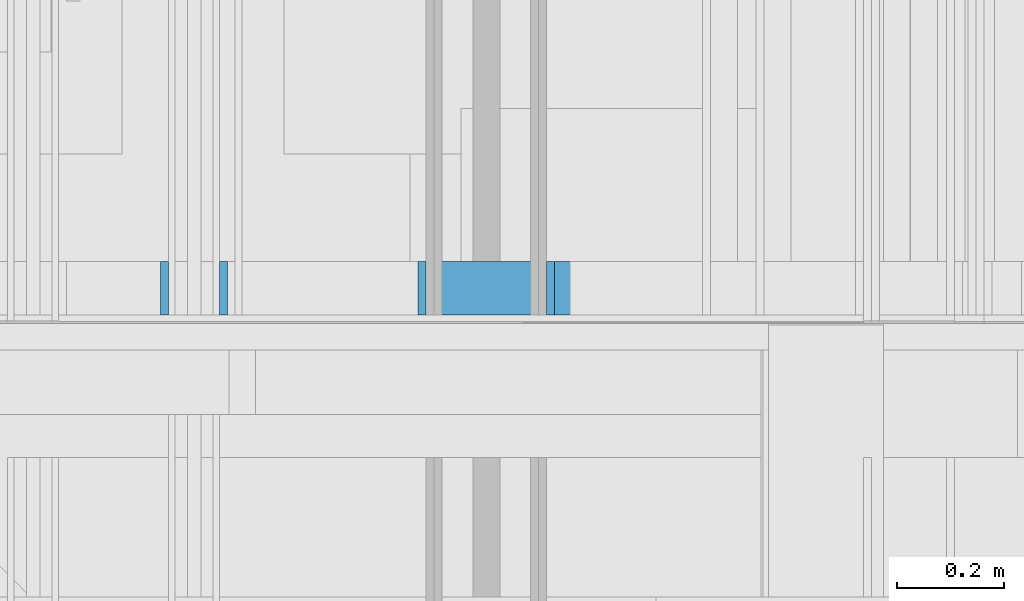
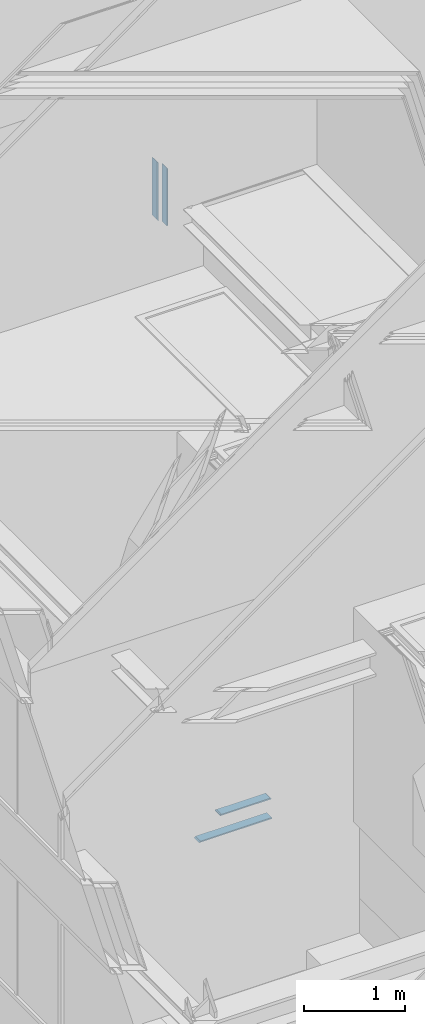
# One storey, part 211 of 583: 6 building element parts, 3 elements without a shape of their own.
"""IFC2X3 building model written with IfcOpenShell, lengths in metres."""

import ifcopenshell
import ifcopenshell.guid

model = None  # the IFC model being written
_history = None  # IfcOwnerHistory: only IFC2X3 demands one
_inside = {}  # id of a spatial element -> (the spatial element, [elements in it])
_under = {}  # id of a project, library or spatial element -> (it, [spatial elements below it])
_declared = {}  # id of a project -> (the project, [libraries it declares])
_typed = {}  # id of a type object -> (the type object, [elements of that type])
_made_of = {}  # id of a material, layer set ... -> (it, [elements and type objects made of it])


def new_model(schema):
    """Start an empty IFC model of exactly this schema.

    Asked for "IFC4X3", IfcOpenShell would pick the latest addendum, in which some entities
    have other attributes; the version numbers below select the first issue.
    IFC2X3 requires an IfcOwnerHistory on every rooted entity: one is made here for all.
    """
    global model, _history
    if schema == "IFC4X3":
        model = ifcopenshell.file(schema_version=(4, 3, 0, 0))
    else:
        model = ifcopenshell.file(schema=schema)
    _inside.clear()
    _under.clear()
    _declared.clear()
    _typed.clear()
    _made_of.clear()
    _history = None
    if model.schema == "IFC2X3":
        org = make("IfcOrganization", Name="unknown")
        user = make(
            "IfcPersonAndOrganization",
            ThePerson=make("IfcPerson", FamilyName="unknown"),
            TheOrganization=org,
        )
        app = make(
            "IfcApplication",
            ApplicationDeveloper=org,
            Version="unknown",
            ApplicationFullName="unknown",
            ApplicationIdentifier="unknown",
        )
        _history = make(
            "IfcOwnerHistory",
            OwningUser=user,
            OwningApplication=app,
            ChangeAction="ADDED",
            CreationDate=0,
        )
    return model


def make(cls, **values):
    """One entity of the class cls with the attributes given. An attribute that is None is left unset."""
    return model.create_entity(
        cls, **{name: value for name, value in values.items() if value is not None}
    )


def entity(cls, *values):
    """Any entity or typed value of the class cls, its attributes in the order of the schema. None: left unset."""
    e = model.create_entity(cls)
    for i, value in enumerate(values):
        if value is not None:
            e[i] = value
    return e


def rooted(cls, **values):
    """An entity with a GlobalId (a new one), such as an element, a storey or a relation."""
    return make(cls, GlobalId=ifcopenshell.guid.new(), OwnerHistory=_history, **values)


def si_unit(unit_type, name, prefix=None):
    """IfcSIUnit, for example si_unit("LENGTHUNIT", "METRE", prefix="MILLI")."""
    return make("IfcSIUnit", UnitType=unit_type, Prefix=prefix, Name=name)


def converted_unit(unit_type, name, factor, base, dimensions=None, offset=None):
    """IfcConversionBasedUnit, such as the inch: factor (a typed value) times the base unit."""
    return make(
        "IfcConversionBasedUnit"
        if offset is None
        else "IfcConversionBasedUnitWithOffset",
        ConversionOffset=offset,
        Dimensions=None
        if dimensions is None
        else entity("IfcDimensionalExponents", *dimensions),
        UnitType=unit_type,
        Name=name,
        ConversionFactor=make(
            "IfcMeasureWithUnit", ValueComponent=factor, UnitComponent=base
        ),
    )


def derived_unit(unit_type, elements):
    """IfcDerivedUnit: a product of units, each with its exponent."""
    return make(
        "IfcDerivedUnit",
        Elements=[
            make("IfcDerivedUnitElement", Unit=unit, Exponent=power)
            for unit, power in elements
        ],
        UnitType=unit_type,
    )


def money_unit(currency):
    """IfcMonetaryUnit."""
    return make("IfcMonetaryUnit", Currency=currency)


def assignment(units):
    """IfcUnitAssignment: the units of a project."""
    return None if units is None else make("IfcUnitAssignment", Units=units)


def point(xyz):
    """IfcCartesianPoint."""
    return None if xyz is None else make("IfcCartesianPoint", Coordinates=xyz)


def direction(xyz):
    """IfcDirection."""
    return None if xyz is None else make("IfcDirection", DirectionRatios=xyz)


def frame(location, z_axis=None, x_axis=None):
    """IfcAxis2Placement3D, a coordinate frame: its origin and axes. An axis left out is left unset."""
    return make(
        "IfcAxis2Placement3D",
        Location=point(location),
        Axis=direction(z_axis),
        RefDirection=direction(x_axis),
    )


def frame_2d(location, x_axis=None):
    """IfcAxis2Placement2D, a coordinate frame in the plane: its origin and x axis."""
    return make(
        "IfcAxis2Placement2D", Location=point(location), RefDirection=direction(x_axis)
    )


def origin_with_axes():
    """The frame at (0, 0, 0) with the z axis (0, 0, 1) and the x axis (1, 0, 0) written out."""
    return frame((0.0, 0.0, 0.0), z_axis=(0.0, 0.0, 1.0), x_axis=(1.0, 0.0, 0.0))


def place(relative_to, where):
    """IfcLocalPlacement: puts the frame where relative to a parent placement (None: the world)."""
    return make(
        "IfcLocalPlacement", PlacementRelTo=relative_to, RelativePlacement=where
    )


def context(
    kind, dimensions, precision=None, world=None, true_north=None, identifier=None
):
    """IfcGeometricRepresentationContext, for example the 3D "Model" context."""
    return make(
        "IfcGeometricRepresentationContext",
        ContextIdentifier=identifier,
        ContextType=kind,
        CoordinateSpaceDimension=dimensions,
        Precision=precision,
        WorldCoordinateSystem=world,
        TrueNorth=true_north,
    )


def subcontext(parent, identifier, kind, view, scale=None):
    """IfcGeometricRepresentationSubContext, for example "Body" below "Model"."""
    return make(
        "IfcGeometricRepresentationSubContext",
        ContextIdentifier=identifier,
        ContextType=kind,
        ParentContext=parent,
        TargetScale=scale,
        TargetView=view,
    )


def project(units=None, contexts=None):
    """IfcProject with its units and contexts."""
    return rooted(
        "IfcProject",
        Name="project",
        RepresentationContexts=contexts,
        UnitsInContext=assignment(units),
    )


def spatial(cls, under=None, at=None, **own):
    """A site, building, storey or space (cls), placed at a placement, below another one or the project."""
    s = rooted(cls, ObjectPlacement=at, **own)
    if under is not None:
        _under.setdefault(under.id(), (under, []))[1].append(s)
    return s


def polyline(points):
    """IfcPolyline through the points."""
    return make("IfcPolyline", Points=[point(p) for p in points])


def profile(cls, at=None, kind="AREA", **sizes):
    """A parametric profile (cls). Its sizes go by their IFC names, for example OverallWidth=200.0."""
    return make(cls, ProfileType=kind, Position=at, **sizes)


def rectangle(**sizes):
    """IfcRectangleProfileDef."""
    return profile("IfcRectangleProfileDef", **sizes)


def outline(outer, holes=None, kind="AREA"):
    """IfcArbitraryClosedProfileDef: a profile drawn as a closed curve; with holes, ...WithVoids."""
    if holes is None:
        return make("IfcArbitraryClosedProfileDef", ProfileType=kind, OuterCurve=outer)
    return make(
        "IfcArbitraryProfileDefWithVoids",
        ProfileType=kind,
        OuterCurve=outer,
        InnerCurves=holes,
    )


def extrude(swept, where, along, depth):
    """IfcExtrudedAreaSolid: the profile swept, set in the frame where, extruded along a direction by depth."""
    return make(
        "IfcExtrudedAreaSolid",
        SweptArea=swept,
        Position=where,
        ExtrudedDirection=direction(along),
        Depth=depth,
    )


def shape(context_of_items, identifier, shape_type, items):
    """IfcShapeRepresentation: the items that make up one representation, for example the "Body"."""
    return make(
        "IfcShapeRepresentation",
        ContextOfItems=context_of_items,
        RepresentationIdentifier=identifier,
        RepresentationType=shape_type,
        Items=items,
    )


def material(Name=None, Category=None):
    """IfcMaterial."""
    return make("IfcMaterial", Name=Name, Category=Category)


def made_of(thing, what):
    """Note that an element or type object is made of a material, layer set ...; save() writes the relation."""
    if what is not None:
        _made_of.setdefault(what.id(), (what, []))[1].append(thing)
    return thing


def type_object(cls, material=None, **own):
    """A type object (cls), such as IfcWallType, which elements share."""
    return made_of(rooted(cls, **own), material)


def element(
    cls,
    number,
    at=None,
    inside=None,
    cuts=None,
    type_object=None,
    material=None,
    context=None,
    identifier="Body",
    shape_type=None,
    held_by="IfcProductDefinitionShape",
    body=None,
    shapes=None,
    **own,
):
    """One element of the class cls, such as IfcWall. Its Tag is "e" and its number.

    at: its placement. inside: the storey or other place that contains it. cuts: it is an
    opening in that element (IfcRelVoidsElement). A single representation is given by context,
    identifier, shape_type and body (its items); several are given by shapes. held_by: the class
    of the entity that holds the representations. save() writes the other relations.
    """
    e = rooted(cls, Tag="e%d" % number, ObjectPlacement=at, **own)
    if body is not None:
        shapes = [shape(context, identifier, shape_type, body)]
    if shapes is not None:
        e.Representation = make(held_by, Representations=shapes)
    if inside is not None:
        _inside.setdefault(inside.id(), (inside, []))[1].append(e)
    if cuts is not None:
        rooted(
            "IfcRelVoidsElement", RelatingBuildingElement=cuts, RelatedOpeningElement=e
        )
    if type_object is not None:
        _typed.setdefault(type_object.id(), (type_object, []))[1].append(e)
    return made_of(e, material)


def aggregate(whole, parts):
    """IfcRelAggregates: a whole, such as a stair, and the parts it consists of."""
    return rooted("IfcRelAggregates", RelatingObject=whole, RelatedObjects=parts)


def save(model, path):
    """Write the relations noted so far, then the file.

    IfcRelAggregates (storeys below a building ...), IfcRelContainedInSpatialStructure (elements
    in a storey), IfcRelDefinesByType, IfcRelAssociatesMaterial and IfcRelDeclares: one each for
    every whole, place, type object, material and project.
    """
    for whole, parts in _under.values():
        aggregate(whole, parts)
    for where, things in _inside.values():
        rooted(
            "IfcRelContainedInSpatialStructure",
            RelatedElements=things,
            RelatingStructure=where,
        )
    for kind, things in _typed.values():
        rooted("IfcRelDefinesByType", RelatedObjects=things, RelatingType=kind)
    for what, things in _made_of.values():
        rooted("IfcRelAssociatesMaterial", RelatedObjects=things, RelatingMaterial=what)
    for by, libraries in _declared.values():
        rooted("IfcRelDeclares", RelatingContext=by, RelatedDefinitions=libraries)
    model.write(path)


model = new_model("IFC2X3")

# Units and contexts
model_context = context("Model", 3, precision=1e-05, world=origin_with_axes(), true_north=direction((0.0, 1.0)))
body_context = subcontext(model_context, "Body", "Model", "MODEL_VIEW", scale=1.0)
ifc_project = project(units=[si_unit("LENGTHUNIT", "METRE"), si_unit("AREAUNIT", "SQUARE_METRE"), si_unit("VOLUMEUNIT", "CUBIC_METRE"), si_unit("ABSORBEDDOSEUNIT", "GRAY"), si_unit("AMOUNTOFSUBSTANCEUNIT", "MOLE"), si_unit("DOSEEQUIVALENTUNIT", "SIEVERT"), si_unit("ELECTRICCAPACITANCEUNIT", "FARAD"), si_unit("ELECTRICCHARGEUNIT", "COULOMB"), si_unit("ELECTRICCONDUCTANCEUNIT", "SIEMENS"), si_unit("ELECTRICCURRENTUNIT", "AMPERE"), si_unit("ELECTRICRESISTANCEUNIT", "OHM"), si_unit("ELECTRICVOLTAGEUNIT", "VOLT"), si_unit("ENERGYUNIT", "JOULE"), si_unit("FORCEUNIT", "NEWTON"), si_unit("FREQUENCYUNIT", "HERTZ"), si_unit("ILLUMINANCEUNIT", "LUX"), si_unit("INDUCTANCEUNIT", "HENRY"), si_unit("LUMINOUSFLUXUNIT", "LUMEN"), si_unit("LUMINOUSINTENSITYUNIT", "CANDELA"), si_unit("MAGNETICFLUXDENSITYUNIT", "TESLA"), si_unit("MAGNETICFLUXUNIT", "WEBER"), si_unit("MASSUNIT", "GRAM"), converted_unit("PLANEANGLEUNIT", "degree", entity("IfcReal", 0.0174532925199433), si_unit("PLANEANGLEUNIT", "RADIAN"), dimensions=[0, 0, 0, 0, 0, 0, 0]), si_unit("POWERUNIT", "WATT"), si_unit("PRESSUREUNIT", "PASCAL"), si_unit("RADIOACTIVITYUNIT", "BECQUEREL"), si_unit("SOLIDANGLEUNIT", "STERADIAN"), si_unit("THERMODYNAMICTEMPERATUREUNIT", "KELVIN"), si_unit("TIMEUNIT", "SECOND"), derived_unit("ACCELERATIONUNIT", [(si_unit("LENGTHUNIT", "METRE"), 1), (si_unit("TIMEUNIT", "SECOND"), -2)]), derived_unit("ANGULARVELOCITYUNIT", [(converted_unit("PLANEANGLEUNIT", "degree", entity("IfcReal", 0.0174532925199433), si_unit("PLANEANGLEUNIT", "RADIAN"), dimensions=[0, 0, 0, 0, 0, 0, 0]), 1), (si_unit("TIMEUNIT", "SECOND"), -1)]), derived_unit("CURVATUREUNIT", [(converted_unit("PLANEANGLEUNIT", "degree", entity("IfcReal", 0.0174532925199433), si_unit("PLANEANGLEUNIT", "RADIAN"), dimensions=[0, 0, 0, 0, 0, 0, 0]), 1), (si_unit("LENGTHUNIT", "METRE"), -1)]), derived_unit("DYNAMICVISCOSITYUNIT", [(si_unit("PRESSUREUNIT", "PASCAL"), 1), (si_unit("TIMEUNIT", "SECOND"), 1)]), derived_unit("HEATFLUXDENSITYUNIT", [(si_unit("POWERUNIT", "WATT"), 1), (si_unit("LENGTHUNIT", "METRE"), -2)]), derived_unit("HEATINGVALUEUNIT", [(si_unit("ENERGYUNIT", "JOULE"), 1), (si_unit("MASSUNIT", "GRAM"), -1)]), derived_unit("INTEGERCOUNTRATEUNIT", [(si_unit("TIMEUNIT", "SECOND"), -1)]), derived_unit("IONCONCENTRATIONUNIT", [(si_unit("MASSUNIT", "GRAM"), 1), (si_unit("VOLUMEUNIT", "CUBIC_METRE"), -1)]), derived_unit("ISOTHERMALMOISTURECAPACITYUNIT", [(si_unit("VOLUMEUNIT", "CUBIC_METRE"), 1), (si_unit("MASSUNIT", "GRAM"), -1)]), derived_unit("KINEMATICVISCOSITYUNIT", [(si_unit("AREAUNIT", "SQUARE_METRE"), 1), (si_unit("TIMEUNIT", "SECOND"), -1)]), derived_unit("LINEARFORCEUNIT", [(si_unit("FORCEUNIT", "NEWTON"), 1), (si_unit("LENGTHUNIT", "METRE"), -1)]), derived_unit("LINEARMOMENTUNIT", [(si_unit("FORCEUNIT", "NEWTON"), 1), (si_unit("LENGTHUNIT", "METRE"), -1)]), derived_unit("LINEARSTIFFNESSUNIT", [(si_unit("FORCEUNIT", "NEWTON"), 1), (si_unit("LENGTHUNIT", "METRE"), -1)]), derived_unit("LINEARVELOCITYUNIT", [(si_unit("LENGTHUNIT", "METRE"), 1), (si_unit("TIMEUNIT", "SECOND"), -1)]), derived_unit("LUMINOUSINTENSITYDISTRIBUTIONUNIT", [(si_unit("LUMINOUSINTENSITYUNIT", "CANDELA"), 1), (si_unit("LUMINOUSFLUXUNIT", "LUMEN"), -1)]), derived_unit("MASSDENSITYUNIT", [(si_unit("MASSUNIT", "GRAM"), 1), (si_unit("VOLUMEUNIT", "CUBIC_METRE"), -1)]), derived_unit("MASSFLOWRATEUNIT", [(si_unit("MASSUNIT", "GRAM"), 1), (si_unit("TIMEUNIT", "SECOND"), -1)]), derived_unit("MASSPERLENGTHUNIT", [(si_unit("MASSUNIT", "GRAM"), 1), (si_unit("LENGTHUNIT", "METRE"), -1)]), derived_unit("MODULUSOFELASTICITYUNIT", [(si_unit("FORCEUNIT", "NEWTON"), 1), (si_unit("AREAUNIT", "SQUARE_METRE"), -1)]), derived_unit("MODULUSOFLINEARSUBGRADEREACTIONUNIT", [(si_unit("FORCEUNIT", "NEWTON"), 1), (si_unit("LENGTHUNIT", "METRE"), -2)]), derived_unit("MODULUSOFROTATIONALSUBGRADEREACTIONUNIT", [(si_unit("FORCEUNIT", "NEWTON"), 1), (si_unit("LENGTHUNIT", "METRE"), 1)]), derived_unit("MODULUSOFSUBGRADEREACTIONUNIT", [(si_unit("FORCEUNIT", "NEWTON"), 1), (si_unit("VOLUMEUNIT", "CUBIC_METRE"), -1)]), derived_unit("MOISTUREDIFFUSIVITYUNIT", [(si_unit("VOLUMEUNIT", "CUBIC_METRE"), 1), (si_unit("TIMEUNIT", "SECOND"), -1)]), derived_unit("MOLECULARWEIGHTUNIT", [(si_unit("MASSUNIT", "GRAM"), 1), (si_unit("AMOUNTOFSUBSTANCEUNIT", "MOLE"), -1)]), derived_unit("PLANARFORCEUNIT", [(si_unit("FORCEUNIT", "NEWTON"), 1), (si_unit("LENGTHUNIT", "METRE"), -2)]), derived_unit("ROTATIONALFREQUENCYUNIT", [(si_unit("TIMEUNIT", "SECOND"), -1)]), derived_unit("ROTATIONALMASSUNIT", [(si_unit("MASSUNIT", "GRAM"), 1), (si_unit("LENGTHUNIT", "METRE"), 2)]), derived_unit("ROTATIONALSTIFFNESSUNIT", [(si_unit("FORCEUNIT", "NEWTON"), 1), (si_unit("LENGTHUNIT", "METRE"), 1), (converted_unit("PLANEANGLEUNIT", "degree", entity("IfcReal", 0.0174532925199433), si_unit("PLANEANGLEUNIT", "RADIAN"), dimensions=[0, 0, 0, 0, 0, 0, 0]), -1)]), derived_unit("SECTIONAREAINTEGRALUNIT", [(si_unit("LENGTHUNIT", "METRE"), 5)]), derived_unit("SECTIONMODULUSUNIT", [(si_unit("LENGTHUNIT", "METRE"), 3)]), derived_unit("SHEARMODULUSUNIT", [(si_unit("FORCEUNIT", "NEWTON"), 1), (si_unit("AREAUNIT", "SQUARE_METRE"), -1)]), derived_unit("SOUNDPOWERUNIT", [(si_unit("ENERGYUNIT", "JOULE"), 1), (si_unit("TIMEUNIT", "SECOND"), -1)]), derived_unit("SPECIFICHEATCAPACITYUNIT", [(si_unit("FORCEUNIT", "NEWTON"), 1), (si_unit("MASSUNIT", "GRAM"), -1), (si_unit("THERMODYNAMICTEMPERATUREUNIT", "KELVIN"), -1)]), derived_unit("TEMPERATUREGRADIENTUNIT", [(si_unit("THERMODYNAMICTEMPERATUREUNIT", "KELVIN"), 1), (si_unit("LENGTHUNIT", "METRE"), -1)]), derived_unit("THERMALADMITTANCEUNIT", [(si_unit("POWERUNIT", "WATT"), 1), (si_unit("AREAUNIT", "SQUARE_METRE"), -1), (si_unit("THERMODYNAMICTEMPERATUREUNIT", "KELVIN"), -1)]), derived_unit("THERMALCONDUCTANCEUNIT", [(si_unit("POWERUNIT", "WATT"), 1), (si_unit("LENGTHUNIT", "METRE"), -1), (si_unit("THERMODYNAMICTEMPERATUREUNIT", "KELVIN"), -1)]), derived_unit("THERMALEXPANSIONCOEFFICIENTUNIT", [(si_unit("THERMODYNAMICTEMPERATUREUNIT", "KELVIN"), -1)]), derived_unit("THERMALRESISTANCEUNIT", [(si_unit("AREAUNIT", "SQUARE_METRE"), 1), (si_unit("POWERUNIT", "WATT"), -1)]), derived_unit("THERMALTRANSMITTANCEUNIT", [(si_unit("POWERUNIT", "WATT"), 1), (si_unit("AREAUNIT", "SQUARE_METRE"), -1), (si_unit("THERMODYNAMICTEMPERATUREUNIT", "KELVIN"), -1)]), derived_unit("TORQUEUNIT", [(si_unit("FORCEUNIT", "NEWTON"), 1), (si_unit("LENGTHUNIT", "METRE"), 1)]), derived_unit("VAPORPERMEABILITYUNIT", [(si_unit("MASSUNIT", "GRAM"), 1), (si_unit("TIMEUNIT", "SECOND"), -1)]), derived_unit("VOLUMETRICFLOWRATEUNIT", [(si_unit("VOLUMEUNIT", "CUBIC_METRE"), 1), (si_unit("TIMEUNIT", "SECOND"), -1)]), derived_unit("WARPINGCONSTANTUNIT", [(si_unit("LENGTHUNIT", "METRE"), 6)]), derived_unit("WARPINGMOMENTUNIT", [(si_unit("FORCEUNIT", "NEWTON"), 1), (si_unit("LENGTHUNIT", "METRE"), 2)]), money_unit("GBP")], contexts=[model_context])

# Site, building, storey
site_placement = place(None, origin_with_axes())
site = spatial("IfcSite", under=ifc_project, at=site_placement, Name="Site", CompositionType="ELEMENT")
building_placement = place(site_placement, origin_with_axes())
building = spatial("IfcBuilding", under=site, at=building_placement, Name="Building01", CompositionType="ELEMENT")
storey_placement = place(building_placement, frame((0.0, 0.0, 20.78), z_axis=(0.0, 0.0, 1.0), x_axis=(1.0, 0.0, 0.0)))
storey = spatial("IfcBuildingStorey", under=building, at=storey_placement, Name="RL", CompositionType="ELEMENT", Elevation=20.78)

# Wall, building element part
wall_type_1 = type_object("IfcWallType", Name="SHE_A-Walls_Type01c_Partywall_225mm_twin_tall", PredefinedType="NOTDEFINED")
wall_1_placement = place(storey_placement, frame((4.302428, 12.13, -8.492), z_axis=(0.0, 1.0, 0.0), x_axis=(0.0, 0.0, 1.0)))
wall_1 = element("IfcWall", 1, at=wall_1_placement, inside=storey, type_object=wall_type_1, Name="1C", ObjectType="SHE_A-Walls_Type01c_Partywall_225mm_twin_tall")
ifc_material = material(Name="A_BSUK_Walls_Timber")
building_element_part_1_placement = place(wall_1_placement, origin_with_axes())
building_element_part_1 = element("IfcBuildingElementPart", 2, at=building_element_part_1_placement, material=ifc_material, Name="2", context=body_context, shape_type="SweptSolid", body=[
    extrude(outline(polyline([(0.102, 0.102), (0.087, 0.087), (0.102549, 0.087), (0.102549, 0.102), (0.102, 0.102)])), frame((0.0, 0.0, 0.015), z_axis=(0.0, 0.0, 1.0), x_axis=(1.0, 0.0, 0.0)), (0.0, 0.0, 1.0), 0.1),
])
aggregate(wall_1, [building_element_part_1])

# Wall, building element parts
wall_type_2 = type_object("IfcWallType", Name="SHE_A-Walls_Type05a_Partition_95mm_tall", PredefinedType="NOTDEFINED")
wall_2_placement = place(storey_placement, frame((3.72, 12.13, -1.005), z_axis=(0.0, 1.0, 0.0), x_axis=(0.0, 0.0, 1.0)))
wall_2 = element("IfcWall", 3, at=wall_2_placement, inside=storey, type_object=wall_type_2, Name="5A", ObjectType="SHE_A-Walls_Type05a_Partition_95mm_tall")
placement_1 = place(wall_2_placement, origin_with_axes())
building_element_part_2 = element("IfcBuildingElementPart", 4, at=placement_1, material=ifc_material, Name="2", context=body_context, shape_type="SweptSolid", body=[
    extrude(outline(polyline([(0.735, -0.035), (0.035, -0.035), (0.05, -0.05), (0.75, -0.05), (0.735, -0.035)])), frame((0.0, 0.0, 0.015), z_axis=(0.0, 0.0, 1.0), x_axis=(1.0, 0.0, 0.0)), (0.0, 0.0, 1.0), 0.1),
])
building_element_part_3 = element("IfcBuildingElementPart", 5, at=placement_1, material=ifc_material, Name="3", context=body_context, shape_type="SweptSolid", body=[
    extrude(outline(polyline([(0.625, 0.075), (-0.06, 0.075), (-0.06, 0.06), (0.64, 0.06), (0.625, 0.075)])), frame((0.0, 0.0, 0.015), z_axis=(0.0, 0.0, 1.0), x_axis=(1.0, 0.0, 0.0)), (0.0, 0.0, 1.0), 0.1),
])
aggregate(wall_2, [building_element_part_2, building_element_part_3])

wall_3_placement = place(storey_placement, frame((4.98, 12.13, -8.492), z_axis=(0.0, 1.0, 0.0), x_axis=(-1.0, 0.0, 0.0)))
wall_3 = element("IfcWall", 6, at=wall_3_placement, inside=storey, type_object=wall_type_1, Name="1C", ObjectType="SHE_A-Walls_Type01c_Partywall_225mm_twin_tall")
placement_2 = place(wall_3_placement, origin_with_axes())
building_element_part_4 = element("IfcBuildingElementPart", 7, at=placement_2, material=ifc_material, Name="2", context=body_context, shape_type="SweptSolid", body=[
    extrude(outline(polyline([(0.575572, 0.102), (0.015, 0.102), (0.0, 0.087), (0.590572, 0.087), (0.575572, 0.102)])), frame((0.0, 0.0, 0.015), z_axis=(0.0, 0.0, 1.0), x_axis=(1.0, 0.0, 0.0)), (0.0, 0.0, 1.0), 0.1),
])
building_element_part_5 = element("IfcBuildingElementPart", 8, at=placement_2, material=ifc_material, Name="7", context=body_context, shape_type="SweptSolid", body=[
    extrude(rectangle(XDim=0.815572, YDim=0.015, at=frame_2d((0.407786, -0.1455), x_axis=(-1.0, 0.0))), frame((0.0, 0.0, 0.015), z_axis=(0.0, 0.0, 1.0), x_axis=(1.0, 0.0, 0.0)), (0.0, 0.0, 1.0), 0.1),
])
building_element_part_6 = element("IfcBuildingElementPart", 9, at=placement_2, material=ifc_material, Name="8", context=body_context, shape_type="SweptSolid", body=[
    extrude(outline(polyline([(0.815572, -0.138), (0.815557, -0.138), (0.815557, -0.153), (0.830572, -0.153), (0.815572, -0.138)])), frame((0.0, 0.0, 0.015), z_axis=(0.0, 0.0, 1.0), x_axis=(1.0, 0.0, 0.0)), (0.0, 0.0, 1.0), 0.1),
])
aggregate(wall_3, [building_element_part_4, building_element_part_5, building_element_part_6])

save(model, "model.ifc")
